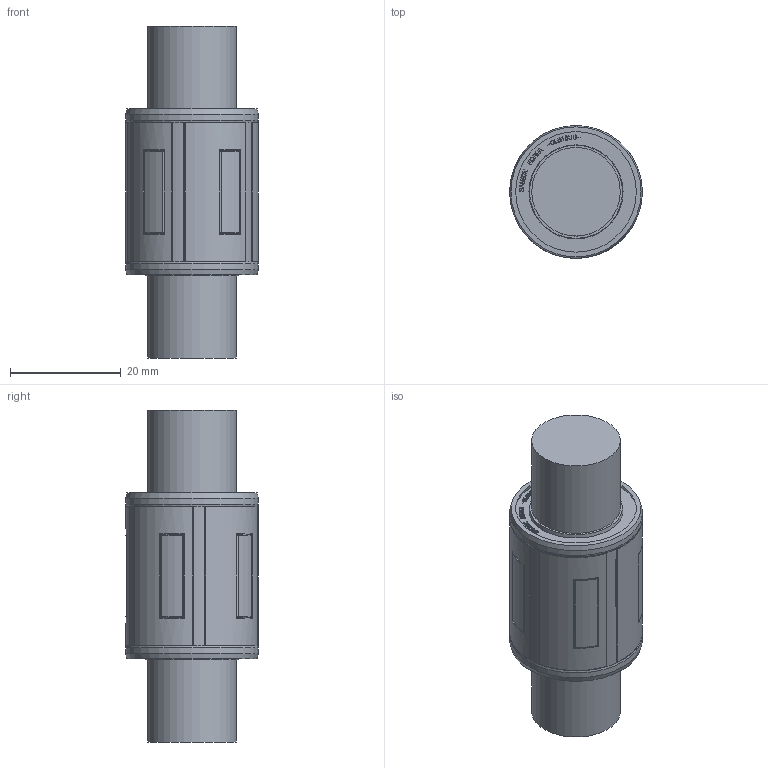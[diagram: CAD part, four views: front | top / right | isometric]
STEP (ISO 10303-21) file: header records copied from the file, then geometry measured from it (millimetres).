
FILE_DESCRIPTION(/* description */ (''),/* implementation_level */ '2;1');
FILE_NAME(/* name */ 'C:\Users\조경제\OneDrive - mysamick.com\바탕 화면\STP\STP_rev1\CLB16UU.stp',/* time_stamp */ '2025-02-05T13:30:56+09:00',/* author */ ('조경제'),/* organization */ (''),/* preprocessor_version */ 'ST-DEVELOPER v17',/* originating_system */ 'Autodesk Inventor 2019',/* authorisation */ '');
FILE_SCHEMA (('AUTOMOTIVE_DESIGN { 1 0 10303 214 3 1 1 }'));
Length unit declared in the file: millimetre
Products named in the file (1): CLB16UU
Bounding box: 24 x 24 x 60 mm (x, y, z)
Volume: 19275.4 mm3; surface area: 5134.5 mm2
Topology: 1 solids, 1 shells, 1073 faces, 2952 edges, 1958 vertices
Faces by surface type: bspline 696, plane 314, cylinder 43, torus 12, cone 8
Full cylindrical faces by diameter (mm): 16 x2, 22 x2, 22.1 x2, 24 x2
Entity records: 37516 total; most frequent: CARTESIAN_POINT 13678, ORIENTED_EDGE 5904, EDGE_CURVE 2952, DIRECTION 2544, VERTEX_POINT 1958, B_SPLINE_CURVE_WITH_KNOTS 1372, LINE 1372, VECTOR 1372
